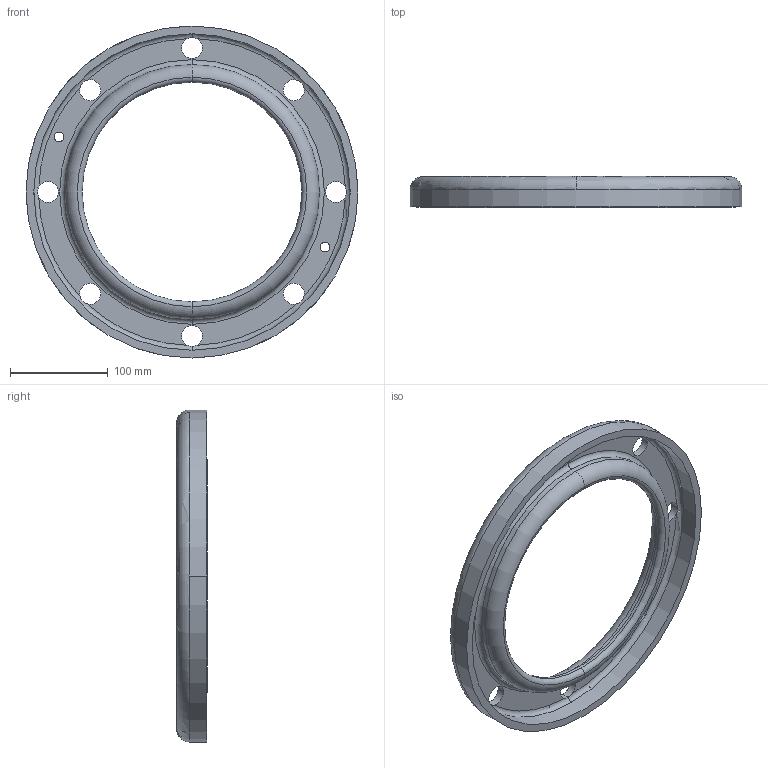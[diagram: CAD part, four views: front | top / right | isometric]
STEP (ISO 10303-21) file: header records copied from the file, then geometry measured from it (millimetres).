
FILE_DESCRIPTION(('STEP AP214'),'1');
FILE_NAME('Losflansch-DN200.stp','2023-07-13T07:25:20',(' '),(' '),'Spatial InterOp 3D',' ',' ');
FILE_SCHEMA(('automotive_design'));
Length unit declared in the file: millimetre
Products named in the file (2): 3D-Arbeitsebene
Assembly tree (1 placements, depth 2):
  3D-Arbeitsebene
    3D-Arbeitsebene
Bounding box: 340 x 31.5 x 340 mm (x, y, z)
Volume: 639488.6 mm3; surface area: 178286.6 mm2
Topology: 1 solids, 1 shells, 48 faces, 178 edges, 118 vertices
Faces by surface type: cylinder 30, torus 14, plane 4
Entity records: 3685 total; most frequent: CARTESIAN_POINT 1654, DIRECTION 362, ORIENTED_EDGE 356, EDGE_CURVE 178, AXIS2_PLACEMENT_3D 166, VERTEX_POINT 118, CIRCLE 116, EDGE_LOOP 56
